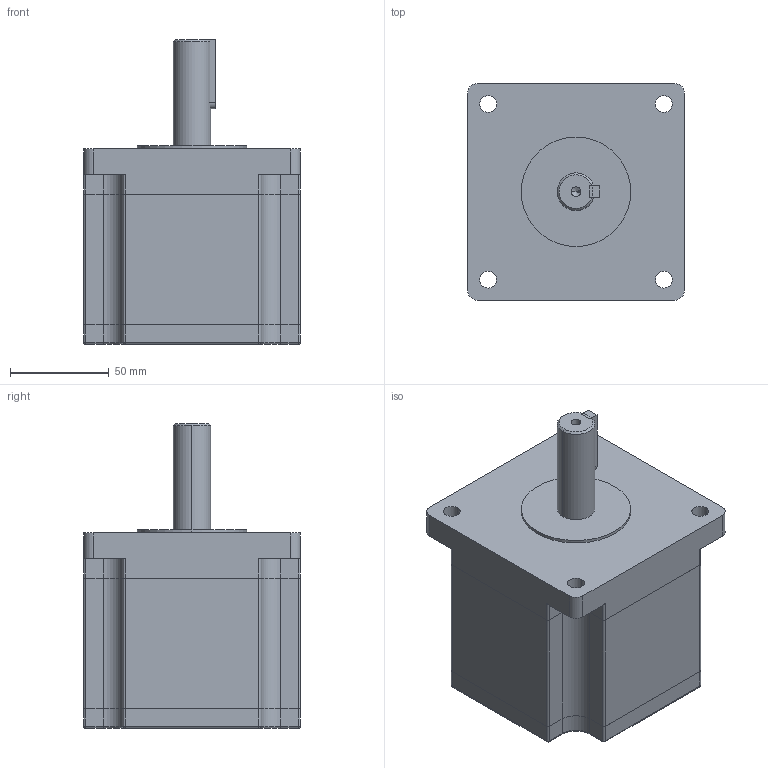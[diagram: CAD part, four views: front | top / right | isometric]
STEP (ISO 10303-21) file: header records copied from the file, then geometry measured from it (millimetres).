
FILE_DESCRIPTION (( 'STEP AP214' ), '1' );
FILE_NAME ('2S110Q-03999.STEP', '2020-10-27T06:38:56', ( '' ), ( '' ), 'SwSTEP 2.0', 'SolidWorks 2020', '' );
FILE_SCHEMA (( 'AUTOMOTIVE_DESIGN' ));
Length unit declared in the file: millimetre
Products named in the file (1): 2S110Q-03999
Bounding box: 109.86 x 109.86 x 154.37 mm (x, y, z)
Volume: 1080509 mm3; surface area: 113164.9 mm2
Topology: 4 solids, 4 shells, 137 faces, 353 edges, 217 vertices
Faces by surface type: cylinder 68, plane 53, sphere 8, cone 4, torus 4
Entity records: 4198 total; most frequent: DIRECTION 761, CARTESIAN_POINT 698, ORIENTED_EDGE 686, EDGE_CURVE 343, AXIS2_PLACEMENT_3D 280, VERTEX_POINT 217, LINE 201, VECTOR 201
